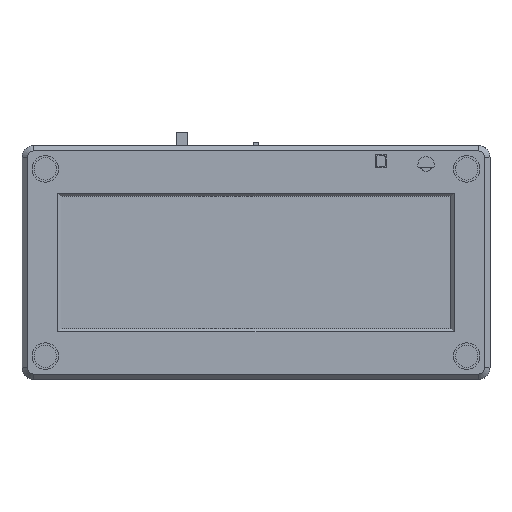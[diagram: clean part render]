
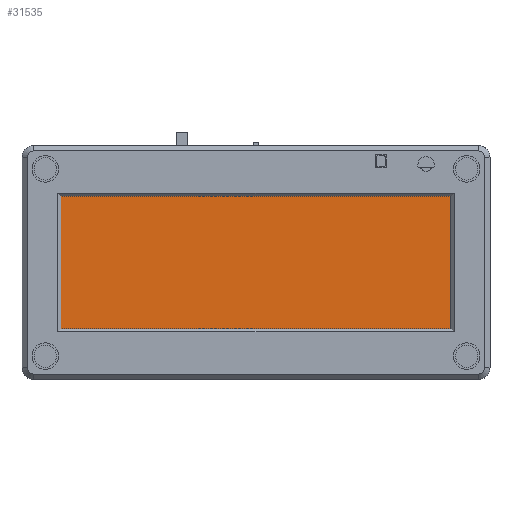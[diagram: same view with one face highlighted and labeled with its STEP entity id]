
A CAD part, top view. The second image highlights one B-rep face of the part: STEP entity #31535.
In plain terms, the highlighted planar face has unit normal (0, 0, 1).
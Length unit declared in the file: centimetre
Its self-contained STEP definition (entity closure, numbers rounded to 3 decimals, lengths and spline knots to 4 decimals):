
#910=FACE_OUTER_BOUND('',#2652,.T.);
#2652=EDGE_LOOP('',(#21826,#21827,#21828,#21829,#21830));
#4819=LINE('',#44727,#9193);
#4823=LINE('',#44735,#9197);
#4826=LINE('',#44741,#9200);
#4829=LINE('',#44747,#9203);
#4832=LINE('',#44752,#9206);
#9193=VECTOR('',#36351,1.);
#9197=VECTOR('',#36357,1.);
#9200=VECTOR('',#36362,1.);
#9203=VECTOR('',#36367,1.);
#9206=VECTOR('',#36372,1.);
#13397=VERTEX_POINT('',#44725);
#13398=VERTEX_POINT('',#44726);
#13401=VERTEX_POINT('',#44734);
#13403=VERTEX_POINT('',#44740);
#13405=VERTEX_POINT('',#44746);
#16636=EDGE_CURVE('',#13397,#13398,#4819,.T.);
#16640=EDGE_CURVE('',#13398,#13401,#4823,.T.);
#16643=EDGE_CURVE('',#13401,#13403,#4826,.T.);
#16646=EDGE_CURVE('',#13403,#13405,#4829,.T.);
#16649=EDGE_CURVE('',#13405,#13397,#4832,.T.);
#21826=ORIENTED_EDGE('',*,*,#16649,.T.);
#21827=ORIENTED_EDGE('',*,*,#16636,.T.);
#21828=ORIENTED_EDGE('',*,*,#16640,.T.);
#21829=ORIENTED_EDGE('',*,*,#16643,.T.);
#21830=ORIENTED_EDGE('',*,*,#16646,.T.);
#29897=PLANE('',#33577);
#31535=ADVANCED_FACE('',(#910),#29897,.T.);
#33577=AXIS2_PLACEMENT_3D('',#44754,#36374,#36375);
#36351=DIRECTION('',(1.,0.,0.));
#36357=DIRECTION('',(0.,1.,0.));
#36362=DIRECTION('',(-1.,0.,0.));
#36367=DIRECTION('',(-0.707,-0.707,0.));
#36372=DIRECTION('',(0.,-1.,0.));
#36374=DIRECTION('center_axis',(0.,0.,1.));
#36375=DIRECTION('ref_axis',(1.,0.,0.));
#44725=CARTESIAN_POINT('',(0.8,1.1,-0.16));
#44726=CARTESIAN_POINT('',(11.2,1.1,-0.16));
#44727=CARTESIAN_POINT('',(0.8,1.1,-0.16));
#44734=CARTESIAN_POINT('',(11.2,4.9,-0.16));
#44735=CARTESIAN_POINT('',(11.2,1.1,-0.16));
#44740=CARTESIAN_POINT('',(1.1,4.9,-0.16));
#44741=CARTESIAN_POINT('',(11.2,4.9,-0.16));
#44746=CARTESIAN_POINT('',(0.8,4.6,-0.16));
#44747=CARTESIAN_POINT('',(1.1,4.9,-0.16));
#44752=CARTESIAN_POINT('',(0.8,4.6,-0.16));
#44754=CARTESIAN_POINT('Origin',(6.,3.,-0.16));
